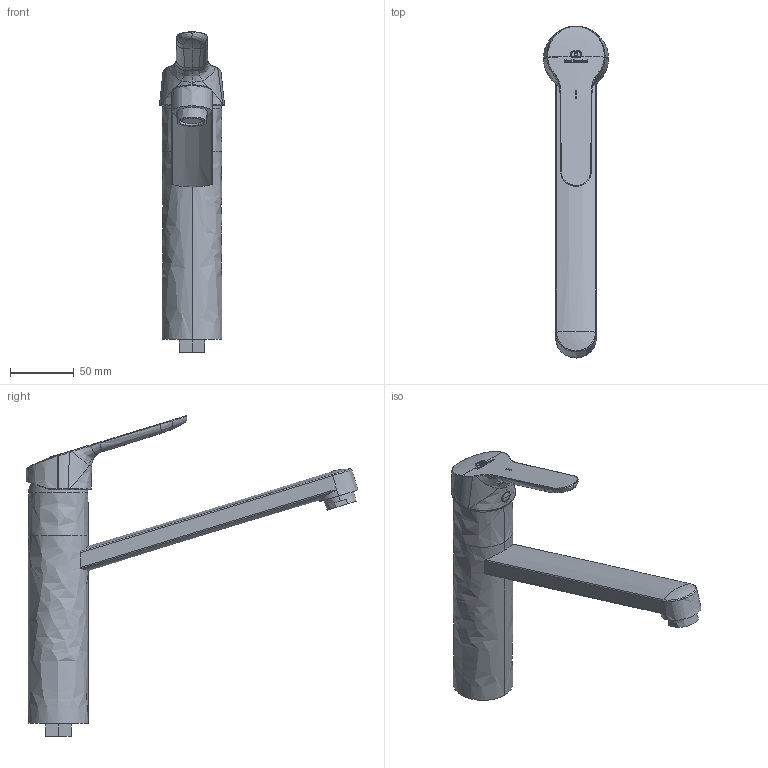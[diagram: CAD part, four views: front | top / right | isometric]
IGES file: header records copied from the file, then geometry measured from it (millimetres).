
Start section: JAMA-IS VERSION  1.0  PTC IGES file: bc135aa_3dpl.igs
Global section: file name: bc135aa_3dpl.igs; native system: Creo Parametric by PTC Inc.; preprocessor: 2016130; author: HristovG; organization: Unknown; date: 20200422.140208; units: millimetre
Bounding box: 50.88 x 260.26 x 251.18 mm (x, y, z)
Volume: 499458.2 mm3; surface area: 67149.8 mm2
Topology: 1 solids, 4 shells, 288 faces, 743 edges, 507 vertices
Faces by surface type: bspline 288
